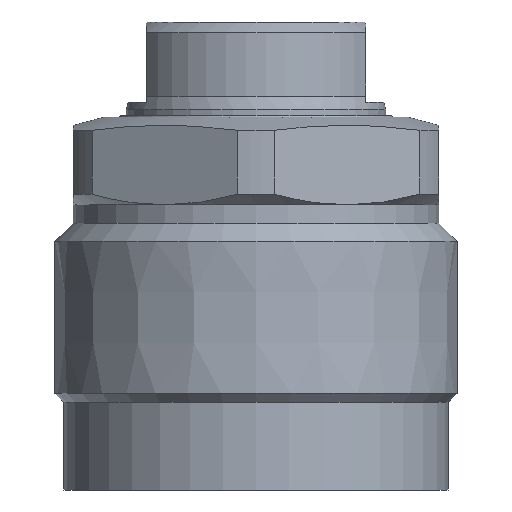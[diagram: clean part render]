
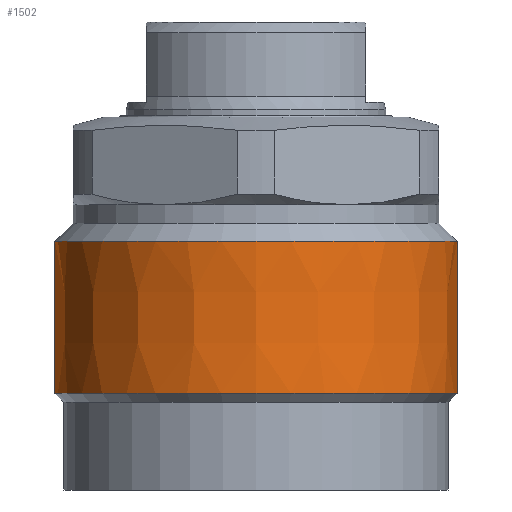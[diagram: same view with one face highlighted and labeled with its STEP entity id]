
A CAD part, front view. The second image highlights one B-rep face of the part: STEP entity #1502.
In plain terms, the highlighted conical face has half-angle 0 degrees and reference radius 27.5 mm.
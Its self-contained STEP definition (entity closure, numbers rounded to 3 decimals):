
#1439=CARTESIAN_POINT('',(-27.5,0.0,-37.8));
#1440=VERTEX_POINT('',#1439);
#1448=CARTESIAN_POINT('',(27.5,0.0,-37.8));
#1449=VERTEX_POINT('',#1448);
#1456=CARTESIAN_POINT('',(-0.0,0.0,-37.8));
#1457=DIRECTION('',(0.0,0.0,1.0));
#1458=DIRECTION('',(1.0,0.0,0.0));
#1459=AXIS2_PLACEMENT_3D('',#1456,#1457,#1458);
#1460=CIRCLE('',#1459,27.5);
#1461=EDGE_CURVE('no 2333',#1440,#1449,#1460,.T.);
#1471=CARTESIAN_POINT('',(27.5,0.0,-17.));
#1472=VERTEX_POINT('',#1471);
#1473=CARTESIAN_POINT('',(27.5,0.0,-17.));
#1474=DIRECTION('',(0.,0.0,-1.0));
#1475=VECTOR('',#1474,1.0);
#1476=LINE('',#1473,#1475);
#1477=EDGE_CURVE('no 2343',#1472,#1449,#1476,.T.);
#1478=ORIENTED_EDGE('',*,*,#1477,.F.);
#1479=CARTESIAN_POINT('',(-27.5,0.0,-17.));
#1480=VERTEX_POINT('',#1479);
#1481=CARTESIAN_POINT('',(-0.0,0.0,-17.));
#1482=DIRECTION('',(0.0,0.0,1.0));
#1483=DIRECTION('',(1.0,0.0,0.0));
#1484=AXIS2_PLACEMENT_3D('',#1481,#1482,#1483);
#1485=CIRCLE('',#1484,27.5);
#1486=EDGE_CURVE('no 2349',#1480,#1472,#1485,.T.);
#1487=ORIENTED_EDGE('',*,*,#1486,.F.);
#1488=CARTESIAN_POINT('',(-27.5,0.0,-17.));
#1489=DIRECTION('',(0.,0.0,-1.0));
#1490=VECTOR('',#1489,1.0);
#1491=LINE('',#1488,#1490);
#1492=EDGE_CURVE('no 2353',#1480,#1440,#1491,.T.);
#1493=ORIENTED_EDGE('',*,*,#1492,.T.);
#1494=ORIENTED_EDGE('',*,*,#1461,.T.);
#1495=EDGE_LOOP('',(#1478,#1487,#1493,#1494));
#1496=FACE_OUTER_BOUND('',#1495,.T.);
#1497=CARTESIAN_POINT('',(-0.0,0.0,-37.8));
#1498=DIRECTION('',(0.0,0.0,-1.0));
#1499=DIRECTION('',(-0.0,1.0,0.0));
#1500=AXIS2_PLACEMENT_3D('',#1497,#1498,#1499);
#1501=CONICAL_SURFACE('',#1500,27.5,0.);
#1502=ADVANCED_FACE('no 2336',(#1496),#1501,.T.);
